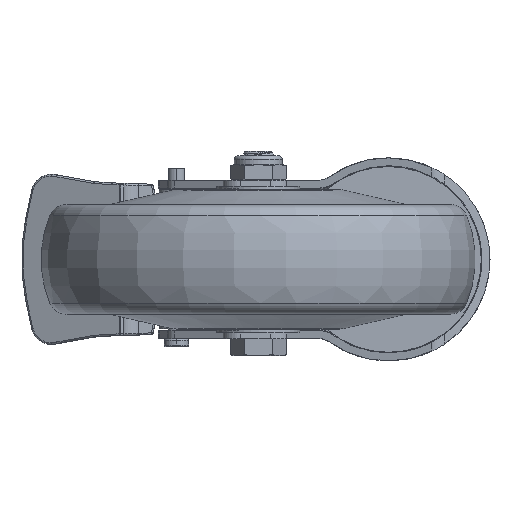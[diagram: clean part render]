
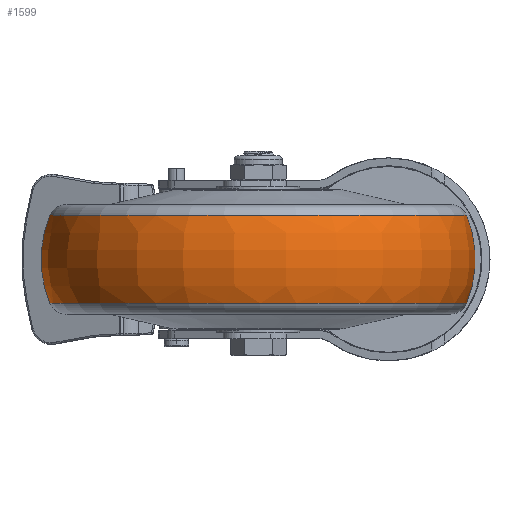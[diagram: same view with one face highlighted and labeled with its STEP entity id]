
A CAD part, front view. The second image highlights one B-rep face of the part: STEP entity #1599.
In plain terms, the highlighted toroidal (fillet/blend) face has major radius 29.539 mm and minor radius 32.961 mm.
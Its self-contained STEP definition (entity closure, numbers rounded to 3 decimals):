
#115 = EDGE_CURVE ( 'NONE', #5741, #23257, #8193, .T. ) ;
#1124 = EDGE_CURVE ( 'NONE', #5741, #24467, #28746, .T. ) ;
#1599 = ADVANCED_FACE ( 'NONE', ( #22423 ), #4567, .T. ) ;
#1700 = CARTESIAN_POINT ( 'NONE',  ( -12.672, 0., 59.967 ) ) ;
#1945 = DIRECTION ( 'NONE',  ( 0., 0., -1. ) ) ;
#4567 = TOROIDAL_SURFACE ( 'NONE', #31502, 29.539, 32.961 ) ;
#5549 = CARTESIAN_POINT ( 'NONE',  ( 12.672, 0., 59.967 ) ) ;
#5741 = VERTEX_POINT ( 'NONE', #1700 ) ;
#6736 = DIRECTION ( 'NONE',  ( 0., 1., 0. ) ) ;
#8107 = DIRECTION ( 'NONE',  ( 1., 0., 0. ) ) ;
#8193 = CIRCLE ( 'NONE', #26675, 32.961 ) ;
#9618 = DIRECTION ( 'NONE',  ( 0., 0., -1. ) ) ;
#9668 = CIRCLE ( 'NONE', #18639, 59.967 ) ;
#9851 = CARTESIAN_POINT ( 'NONE',  ( 0., 0., 0. ) ) ;
#10132 = ORIENTED_EDGE ( 'NONE', *, *, #115, .F. ) ;
#10488 = VERTEX_POINT ( 'NONE', #10724 ) ;
#10724 = CARTESIAN_POINT ( 'NONE',  ( 12.672, 0., -59.967 ) ) ;
#14166 = ORIENTED_EDGE ( 'NONE', *, *, #16784, .T. ) ;
#14502 = DIRECTION ( 'NONE',  ( 0., -1., 0. ) ) ;
#14906 = CARTESIAN_POINT ( 'NONE',  ( 12.672, 0., 0. ) ) ;
#16784 = EDGE_CURVE ( 'NONE', #24467, #10488, #16947, .T. ) ;
#16947 = CIRCLE ( 'NONE', #28558, 32.961 ) ;
#18639 = AXIS2_PLACEMENT_3D ( 'NONE', #14906, #24663, #9618 ) ;
#19301 = CARTESIAN_POINT ( 'NONE',  ( 0., 0., 29.539 ) ) ;
#20089 = DIRECTION ( 'NONE',  ( 1., 0., 0. ) ) ;
#20501 = CARTESIAN_POINT ( 'NONE',  ( -12.672, 0., 0. ) ) ;
#20801 = EDGE_LOOP ( 'NONE', ( #10132, #26400, #14166, #23004 ) ) ;
#22391 = CARTESIAN_POINT ( 'NONE',  ( -12.672, 0., -59.967 ) ) ;
#22423 = FACE_OUTER_BOUND ( 'NONE', #20801, .T. ) ;
#23004 = ORIENTED_EDGE ( 'NONE', *, *, #23358, .F. ) ;
#23257 = VERTEX_POINT ( 'NONE', #5549 ) ;
#23302 = DIRECTION ( 'NONE',  ( 0., 0., -1. ) ) ;
#23358 = EDGE_CURVE ( 'NONE', #23257, #10488, #9668, .T. ) ;
#23440 = AXIS2_PLACEMENT_3D ( 'NONE', #20501, #8107, #23302 ) ;
#24467 = VERTEX_POINT ( 'NONE', #22391 ) ;
#24663 = DIRECTION ( 'NONE',  ( 1., 0., 0. ) ) ;
#24916 = CARTESIAN_POINT ( 'NONE',  ( 0., 0., -29.539 ) ) ;
#26400 = ORIENTED_EDGE ( 'NONE', *, *, #1124, .T. ) ;
#26675 = AXIS2_PLACEMENT_3D ( 'NONE', #19301, #6736, #26896 ) ;
#26896 = DIRECTION ( 'NONE',  ( 0., 0., 1. ) ) ;
#28558 = AXIS2_PLACEMENT_3D ( 'NONE', #24916, #14502, #1945 ) ;
#28746 = CIRCLE ( 'NONE', #23440, 59.967 ) ;
#30193 = DIRECTION ( 'NONE',  ( 0., 0., -1. ) ) ;
#31502 = AXIS2_PLACEMENT_3D ( 'NONE', #9851, #20089, #30193 ) ;
